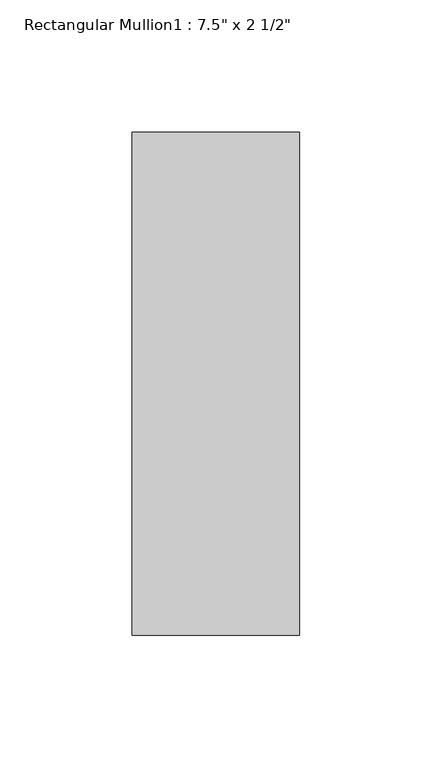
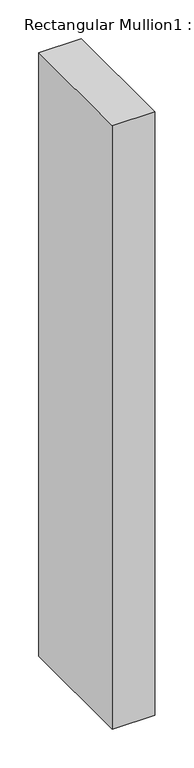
"""IFC4 building model written with IfcOpenShell, lengths in millimetres: member geometry."""

from ifc_helpers import new_model, si_unit, frame, origin, place, context, project, spatial, polyline, outline, extrude, source, transform, mapped, element, save


def member_0eb350a3(model_context):
    return source(origin(), model_context, "Body", "SweptSolid", [
        extrude(outline(polyline([(31.75, 165.1), (31.75, -25.4), (-31.75, -25.4), (-31.75, 165.1), (31.75, 165.1)])), frame((0.0, 0.0, -952.5), z_axis=(0.0, 0.0, 1.0), x_axis=(1.0, 0.0, 0.0)), (0.0, 0.0, 1.0), 952.5),
    ])


if __name__ == "__main__":
    model = new_model("IFC4")
    model_context = context("Model", 3, world=origin())
    ifc_project = project(units=[si_unit("LENGTHUNIT", "METRE", prefix="MILLI")], contexts=[model_context])
    site = spatial("IfcSite", under=ifc_project)
    building = spatial("IfcBuilding", under=site)
    placement = place(None, origin())
    member_shape = member_0eb350a3(model_context)
    element("IfcMember", 1, ObjectType="Rectangular Mullion1 : 7.5\" x 2 1/2\"", at=placement, inside=building, context=model_context, shape_type="MappedRepresentation", body=[
        mapped(member_shape, transform((0.0, 0.0, 0.0), x_axis=(1.0, 0.0, 0.0), y_axis=(0.0, 1.0, 0.0), z_axis=(0.0, 0.0, 1.0))),
    ])
    save(model, "model.ifc")
